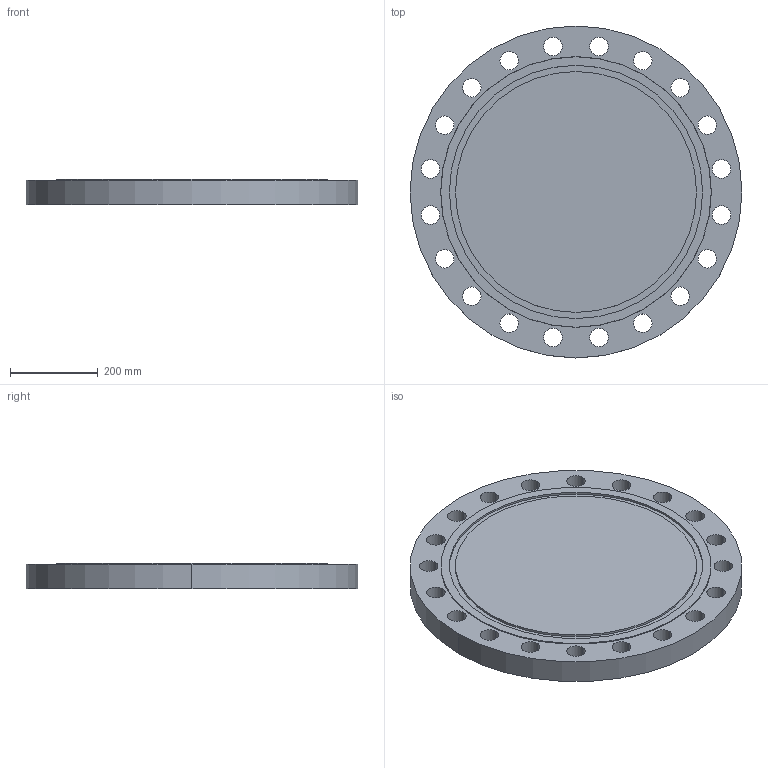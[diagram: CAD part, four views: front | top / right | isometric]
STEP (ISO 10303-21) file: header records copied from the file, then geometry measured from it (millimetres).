
FILE_DESCRIPTION (( 'STEP AP214' ), '1' );
FILE_NAME ('PN40 DN500 Type 05 - Type D Face.STEP', '2018-12-29T01:31:21', ( '' ), ( '' ), 'SwSTEP 2.0', 'SolidWorks 2019', '' );
FILE_SCHEMA (( 'AUTOMOTIVE_DESIGN' ));
Length unit declared in the file: millimetre
Products named in the file (1): PN40 DN500 Type 05 - Type D Face
Bounding box: 755 x 755 x 57 mm (x, y, z)
Volume: 23570531.6 mm3; surface area: 1136471.7 mm2
Topology: 1 solids, 1 shells, 53 faces, 144 edges, 96 vertices
Faces by surface type: cylinder 46, plane 5, cone 2
Entity records: 1848 total; most frequent: DIRECTION 348, CARTESIAN_POINT 294, ORIENTED_EDGE 288, AXIS2_PLACEMENT_3D 150, EDGE_CURVE 144, CIRCLE 96, EDGE_LOOP 96, VERTEX_POINT 96
